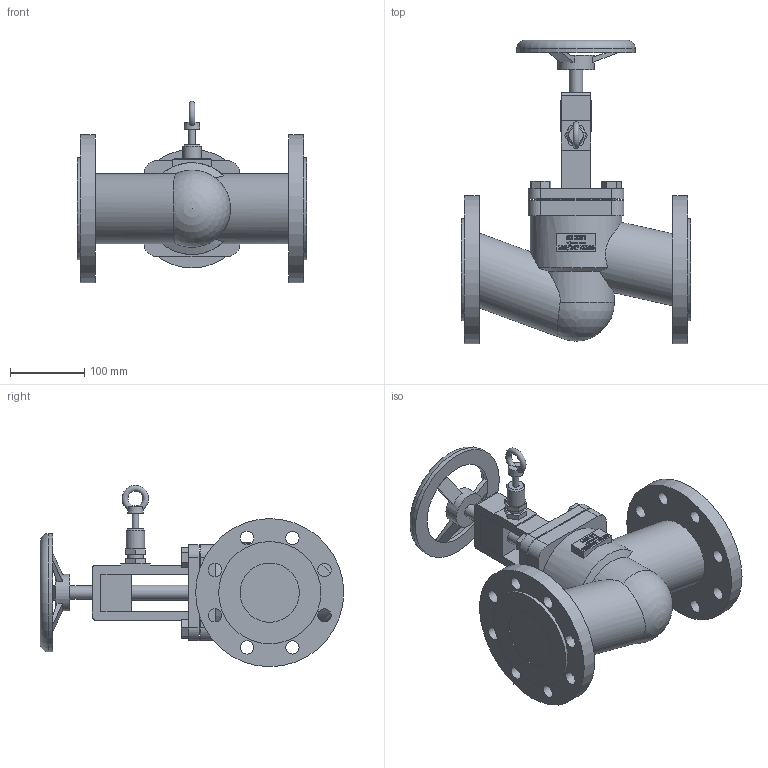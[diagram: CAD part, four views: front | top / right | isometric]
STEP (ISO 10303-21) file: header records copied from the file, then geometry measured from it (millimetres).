
FILE_DESCRIPTION(/* description */ (''),/* implementation_level */ '2;1');
FILE_NAME(/* name */ '100-247M-DN80-PN16.stp',/* time_stamp */ '2024-07-09T08:17:50+02:00',/* author */ ('roger.thijssen'),/* organization */ (''),/* preprocessor_version */ 'ST-DEVELOPER v20',/* originating_system */ 'Autodesk Inventor 2024',/* authorisation */ '');
FILE_SCHEMA (('AUTOMOTIVE_DESIGN { 1 0 10303 214 3 1 1 }'));
Length unit declared in the file: millimetre
Products named in the file (1): 100-247M-DN80-PN16
Bounding box: 310 x 410 x 245 mm (x, y, z)
Volume: 5156226.8 mm3; surface area: 393594.7 mm2
Topology: 1 solids, 1 shells, 377 faces, 989 edges, 657 vertices
Faces by surface type: plane 234, bspline 78, cylinder 58, cone 4, torus 2, sphere 1
Full cylindrical faces by diameter (mm): 9 x1, 18 x17, 20 x1, 21 x1, 25 x1, 49.55 x1, 80 x2, 95 x2, 110 x1, 116 x1, 124 x1, 138 x2, 160 x1, 200 x2
Entity records: 12967 total; most frequent: CARTESIAN_POINT 3523, ORIENTED_EDGE 1976, DIRECTION 1555, EDGE_CURVE 988, LINE 667, VECTOR 667, VERTEX_POINT 657, EDGE_LOOP 465
